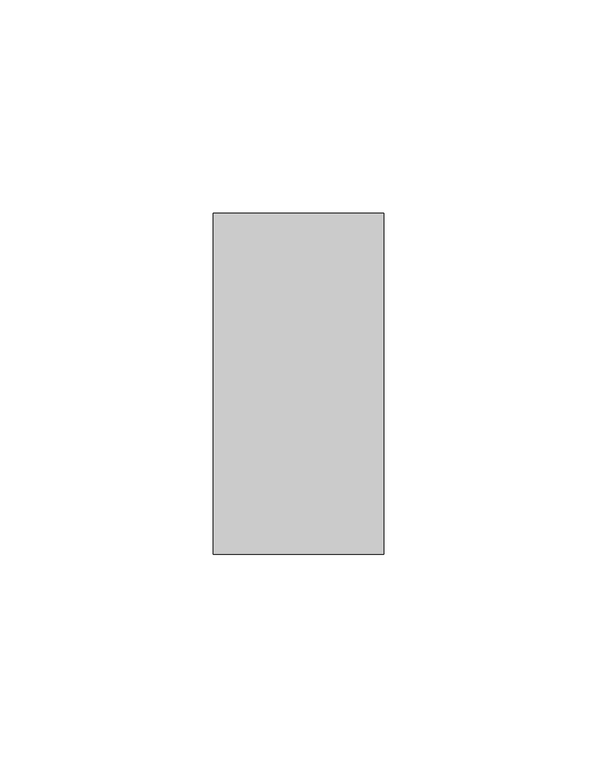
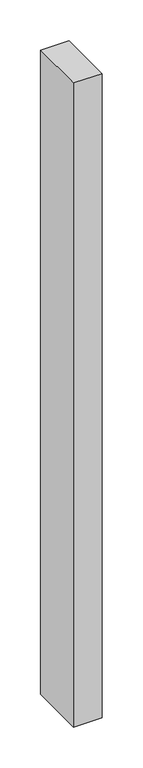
"""IFC4 building model written with IfcOpenShell, lengths in millimetres: member geometry, Obdélníková příčel : VERTI PANORAMA - vertikální."""

import ifcopenshell
import ifcopenshell.guid

model = None  # the IFC model being written
_history = None  # IfcOwnerHistory: only IFC2X3 demands one
_inside = {}  # id of a spatial element -> (the spatial element, [elements in it])
_under = {}  # id of a project, library or spatial element -> (it, [spatial elements below it])
_declared = {}  # id of a project -> (the project, [libraries it declares])
_typed = {}  # id of a type object -> (the type object, [elements of that type])
_made_of = {}  # id of a material, layer set ... -> (it, [elements and type objects made of it])


def new_model(schema):
    """Start an empty IFC model of exactly this schema.

    Asked for "IFC4X3", IfcOpenShell would pick the latest addendum, in which some entities
    have other attributes; the version numbers below select the first issue.
    IFC2X3 requires an IfcOwnerHistory on every rooted entity: one is made here for all.
    """
    global model, _history
    if schema == "IFC4X3":
        model = ifcopenshell.file(schema_version=(4, 3, 0, 0))
    else:
        model = ifcopenshell.file(schema=schema)
    _inside.clear()
    _under.clear()
    _declared.clear()
    _typed.clear()
    _made_of.clear()
    _history = None
    if model.schema == "IFC2X3":
        org = make("IfcOrganization", Name="unknown")
        user = make(
            "IfcPersonAndOrganization",
            ThePerson=make("IfcPerson", FamilyName="unknown"),
            TheOrganization=org,
        )
        app = make(
            "IfcApplication",
            ApplicationDeveloper=org,
            Version="unknown",
            ApplicationFullName="unknown",
            ApplicationIdentifier="unknown",
        )
        _history = make(
            "IfcOwnerHistory",
            OwningUser=user,
            OwningApplication=app,
            ChangeAction="ADDED",
            CreationDate=0,
        )
    return model


def make(cls, **values):
    """One entity of the class cls with the attributes given. An attribute that is None is left unset."""
    return model.create_entity(
        cls, **{name: value for name, value in values.items() if value is not None}
    )


def rooted(cls, **values):
    """An entity with a GlobalId (a new one), such as an element, a storey or a relation."""
    return make(cls, GlobalId=ifcopenshell.guid.new(), OwnerHistory=_history, **values)


def si_unit(unit_type, name, prefix=None):
    """IfcSIUnit, for example si_unit("LENGTHUNIT", "METRE", prefix="MILLI")."""
    return make("IfcSIUnit", UnitType=unit_type, Prefix=prefix, Name=name)


def assignment(units):
    """IfcUnitAssignment: the units of a project."""
    return None if units is None else make("IfcUnitAssignment", Units=units)


def point(xyz):
    """IfcCartesianPoint."""
    return None if xyz is None else make("IfcCartesianPoint", Coordinates=xyz)


def direction(xyz):
    """IfcDirection."""
    return None if xyz is None else make("IfcDirection", DirectionRatios=xyz)


def frame(location, z_axis=None, x_axis=None):
    """IfcAxis2Placement3D, a coordinate frame: its origin and axes. An axis left out is left unset."""
    return make(
        "IfcAxis2Placement3D",
        Location=point(location),
        Axis=direction(z_axis),
        RefDirection=direction(x_axis),
    )


def origin():
    """The frame at (0, 0, 0) with its axes left unset."""
    return frame((0.0, 0.0, 0.0))


def place(relative_to, where):
    """IfcLocalPlacement: puts the frame where relative to a parent placement (None: the world)."""
    return make(
        "IfcLocalPlacement", PlacementRelTo=relative_to, RelativePlacement=where
    )


def context(
    kind, dimensions, precision=None, world=None, true_north=None, identifier=None
):
    """IfcGeometricRepresentationContext, for example the 3D "Model" context."""
    return make(
        "IfcGeometricRepresentationContext",
        ContextIdentifier=identifier,
        ContextType=kind,
        CoordinateSpaceDimension=dimensions,
        Precision=precision,
        WorldCoordinateSystem=world,
        TrueNorth=true_north,
    )


def project(units=None, contexts=None):
    """IfcProject with its units and contexts."""
    return rooted(
        "IfcProject",
        Name="project",
        RepresentationContexts=contexts,
        UnitsInContext=assignment(units),
    )


def spatial(cls, under=None, at=None, **own):
    """A site, building, storey or space (cls), placed at a placement, below another one or the project."""
    s = rooted(cls, ObjectPlacement=at, **own)
    if under is not None:
        _under.setdefault(under.id(), (under, []))[1].append(s)
    return s


def polyline(points):
    """IfcPolyline through the points."""
    return make("IfcPolyline", Points=[point(p) for p in points])


def outline(outer, holes=None, kind="AREA"):
    """IfcArbitraryClosedProfileDef: a profile drawn as a closed curve; with holes, ...WithVoids."""
    if holes is None:
        return make("IfcArbitraryClosedProfileDef", ProfileType=kind, OuterCurve=outer)
    return make(
        "IfcArbitraryProfileDefWithVoids",
        ProfileType=kind,
        OuterCurve=outer,
        InnerCurves=holes,
    )


def extrude(swept, where, along, depth):
    """IfcExtrudedAreaSolid: the profile swept, set in the frame where, extruded along a direction by depth."""
    return make(
        "IfcExtrudedAreaSolid",
        SweptArea=swept,
        Position=where,
        ExtrudedDirection=direction(along),
        Depth=depth,
    )


def shape(context_of_items, identifier, shape_type, items):
    """IfcShapeRepresentation: the items that make up one representation, for example the "Body"."""
    return make(
        "IfcShapeRepresentation",
        ContextOfItems=context_of_items,
        RepresentationIdentifier=identifier,
        RepresentationType=shape_type,
        Items=items,
    )


def source(mapping_origin, context_of_items, identifier, shape_type, items):
    """IfcRepresentationMap: a shape defined once, which mapped items show again and again."""
    return make(
        "IfcRepresentationMap",
        MappingOrigin=mapping_origin,
        MappedRepresentation=shape(context_of_items, identifier, shape_type, items),
    )


def transform(
    local_origin,
    x_axis=None,
    y_axis=None,
    z_axis=None,
    scale=None,
    scale2=None,
    scale3=None,
    uniform=True,
):
    """IfcCartesianTransformationOperator3D, or its non-uniform kind. x_axis, y_axis, z_axis: its Axis1, 2, 3."""
    if uniform:
        return make(
            "IfcCartesianTransformationOperator3D",
            Axis1=direction(x_axis),
            Axis2=direction(y_axis),
            LocalOrigin=point(local_origin),
            Scale=scale,
            Axis3=direction(z_axis),
        )
    return make(
        "IfcCartesianTransformationOperator3DnonUniform",
        Axis1=direction(x_axis),
        Axis2=direction(y_axis),
        LocalOrigin=point(local_origin),
        Scale=scale,
        Axis3=direction(z_axis),
        Scale2=scale2,
        Scale3=scale3,
    )


def mapped(mapping_source, mapping_target):
    """IfcMappedItem: shows the shape of a source again, moved by a transform."""
    return make(
        "IfcMappedItem", MappingSource=mapping_source, MappingTarget=mapping_target
    )


def made_of(thing, what):
    """Note that an element or type object is made of a material, layer set ...; save() writes the relation."""
    if what is not None:
        _made_of.setdefault(what.id(), (what, []))[1].append(thing)
    return thing


def element(
    cls,
    number,
    at=None,
    inside=None,
    cuts=None,
    type_object=None,
    material=None,
    context=None,
    identifier="Body",
    shape_type=None,
    held_by="IfcProductDefinitionShape",
    body=None,
    shapes=None,
    **own,
):
    """One element of the class cls, such as IfcWall. Its Tag is "e" and its number.

    at: its placement. inside: the storey or other place that contains it. cuts: it is an
    opening in that element (IfcRelVoidsElement). A single representation is given by context,
    identifier, shape_type and body (its items); several are given by shapes. held_by: the class
    of the entity that holds the representations. save() writes the other relations.
    """
    e = rooted(cls, Tag="e%d" % number, ObjectPlacement=at, **own)
    if body is not None:
        shapes = [shape(context, identifier, shape_type, body)]
    if shapes is not None:
        e.Representation = make(held_by, Representations=shapes)
    if inside is not None:
        _inside.setdefault(inside.id(), (inside, []))[1].append(e)
    if cuts is not None:
        rooted(
            "IfcRelVoidsElement", RelatingBuildingElement=cuts, RelatedOpeningElement=e
        )
    if type_object is not None:
        _typed.setdefault(type_object.id(), (type_object, []))[1].append(e)
    return made_of(e, material)


def aggregate(whole, parts):
    """IfcRelAggregates: a whole, such as a stair, and the parts it consists of."""
    return rooted("IfcRelAggregates", RelatingObject=whole, RelatedObjects=parts)


def save(model, path):
    """Write the relations noted so far, then the file.

    IfcRelAggregates (storeys below a building ...), IfcRelContainedInSpatialStructure (elements
    in a storey), IfcRelDefinesByType, IfcRelAssociatesMaterial and IfcRelDeclares: one each for
    every whole, place, type object, material and project.
    """
    for whole, parts in _under.values():
        aggregate(whole, parts)
    for where, things in _inside.values():
        rooted(
            "IfcRelContainedInSpatialStructure",
            RelatedElements=things,
            RelatingStructure=where,
        )
    for kind, things in _typed.values():
        rooted("IfcRelDefinesByType", RelatedObjects=things, RelatingType=kind)
    for what, things in _made_of.values():
        rooted("IfcRelAssociatesMaterial", RelatedObjects=things, RelatingMaterial=what)
    for by, libraries in _declared.values():
        rooted("IfcRelDeclares", RelatingContext=by, RelatedDefinitions=libraries)
    model.write(path)


def member_5451a1f9(model_context):
    return source(origin(), model_context, "Body", "SweptSolid", [
        extrude(outline(polyline([(0.0, 40.0), (0.0, -40.0), (-40.0, -40.0), (-40.0, 40.0), (0.0, 40.0)])), frame((0.0, 0.0, -960.0), z_axis=(0.0, 0.0, 1.0), x_axis=(1.0, 0.0, 0.0)), (0.0, 0.0, 1.0), 960.0),
    ])


if __name__ == "__main__":
    model = new_model("IFC4")
    model_context = context("Model", 3, world=origin())
    ifc_project = project(units=[si_unit("LENGTHUNIT", "METRE", prefix="MILLI")], contexts=[model_context])
    site = spatial("IfcSite", under=ifc_project)
    building = spatial("IfcBuilding", under=site)
    placement = place(None, origin())
    member_shape = member_5451a1f9(model_context)
    element("IfcMember", 1, ObjectType="Obdélníková příčel : VERTI PANORAMA - vertikální", at=placement, inside=building, context=model_context, shape_type="MappedRepresentation", body=[
        mapped(member_shape, transform((0.0, 0.0, 0.0), x_axis=(1.0, 0.0, 0.0), y_axis=(0.0, 1.0, 0.0), z_axis=(0.0, 0.0, 1.0))),
    ])
    save(model, "model.ifc")
